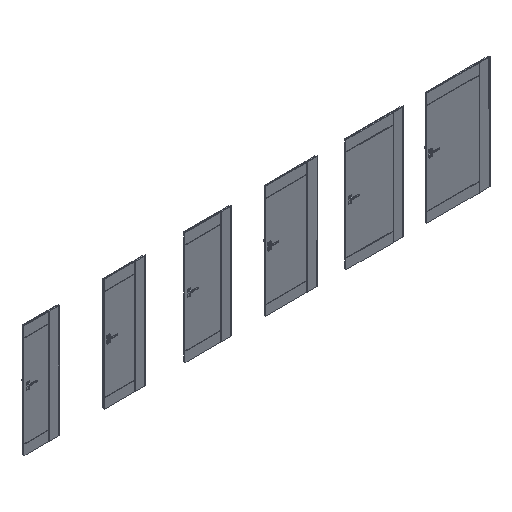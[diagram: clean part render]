
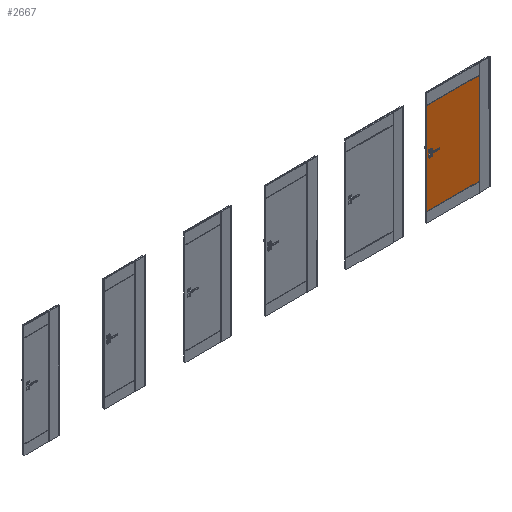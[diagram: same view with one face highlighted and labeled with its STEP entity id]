
A CAD part, isometric view. The second image highlights one B-rep face of the part: STEP entity #2667.
In plain terms, the highlighted planar face has unit normal (0, -1, 0).
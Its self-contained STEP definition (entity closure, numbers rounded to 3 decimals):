
#2667=ADVANCED_FACE('',(#4899),#4095,.F.);
#4095=PLANE('',#23500);
#4899=FACE_OUTER_BOUND('',#6255,.T.);
#6255=EDGE_LOOP('',(#8606,#8607,#8608,#8609));
#8606=ORIENTED_EDGE('',*,*,#16418,.T.);
#8607=ORIENTED_EDGE('',*,*,#16419,.T.);
#8608=ORIENTED_EDGE('',*,*,#16420,.T.);
#8609=ORIENTED_EDGE('',*,*,#16421,.T.);
#14302=VERTEX_POINT('',#32360);
#14303=VERTEX_POINT('',#32361);
#14304=VERTEX_POINT('',#32363);
#14305=VERTEX_POINT('',#32365);
#16418=EDGE_CURVE('',#14302,#14303,#19610,.T.);
#16419=EDGE_CURVE('',#14303,#14304,#19611,.T.);
#16420=EDGE_CURVE('',#14304,#14305,#19612,.T.);
#16421=EDGE_CURVE('',#14305,#14302,#19613,.T.);
#19610=LINE('',#32359,#21722);
#19611=LINE('',#32362,#21723);
#19612=LINE('',#32364,#21724);
#19613=LINE('',#32366,#21725);
#21722=VECTOR('',#26171,1.);
#21723=VECTOR('',#26172,1.);
#21724=VECTOR('',#26173,1.);
#21725=VECTOR('',#26174,1.);
#23500=AXIS2_PLACEMENT_3D('',#32367,#26175,#26176);
#26171=DIRECTION('',(0.,0.,1.));
#26172=DIRECTION('',(-1.,0.,0.));
#26173=DIRECTION('',(0.,0.,-1.));
#26174=DIRECTION('',(1.,0.,0.));
#26175=DIRECTION('',(0.,1.,0.));
#26176=DIRECTION('',(-1.,0.,0.));
#32359=CARTESIAN_POINT('',(7876.,-39.3,0.));
#32360=CARTESIAN_POINT('',(7876.,-39.3,183.));
#32361=CARTESIAN_POINT('',(7876.,-39.3,1834.));
#32362=CARTESIAN_POINT('',(7876.,-39.3,1834.));
#32363=CARTESIAN_POINT('',(6928.,-39.3,1834.));
#32364=CARTESIAN_POINT('',(6928.,-39.3,2030.));
#32365=CARTESIAN_POINT('',(6928.,-39.3,183.));
#32366=CARTESIAN_POINT('',(6928.,-39.3,183.));
#32367=CARTESIAN_POINT('',(7178.,-39.3,2030.));
